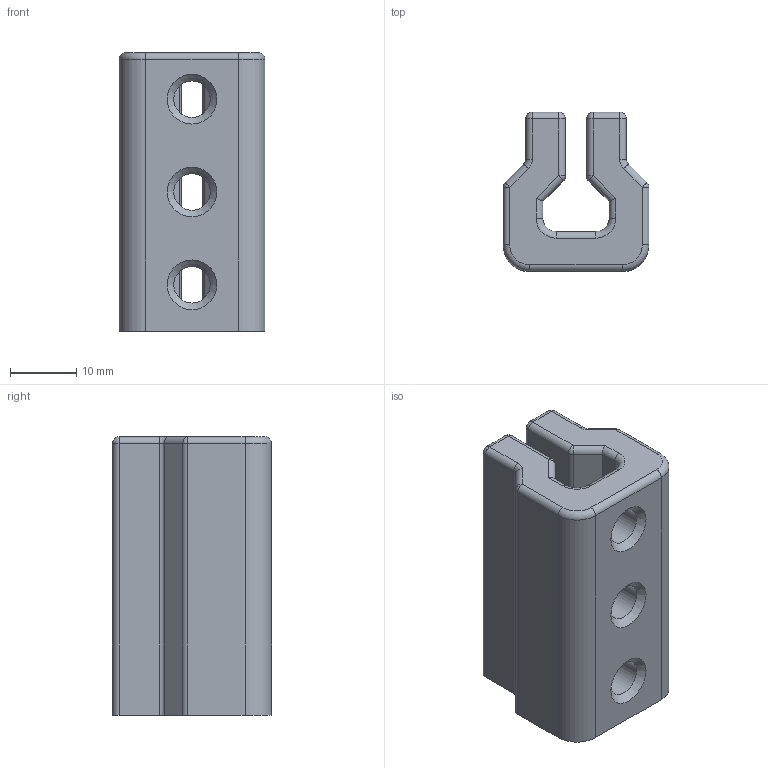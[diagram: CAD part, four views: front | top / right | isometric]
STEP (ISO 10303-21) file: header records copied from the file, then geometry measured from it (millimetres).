
FILE_DESCRIPTION(/* description */ (''),/* implementation_level */ '2;1');
FILE_NAME(/* name */ 'V:\Flow\Inventor\PEEK\Reaktoren\PEEK_mittiger Anschluss_Schiene_3er.stp',/* time_stamp */ '2020-05-22T11:50:42+02:00',/* author */ ('JN'),/* organization */ (''),/* preprocessor_version */ 'ST-DEVELOPER v17',/* originating_system */ 'Autodesk Inventor 2018',/* authorisation */ '');
FILE_SCHEMA (('AUTOMOTIVE_DESIGN { 1 0 10303 214 3 1 1 }'));
Length unit declared in the file: millimetre
Products named in the file (1): PEEK_mittiger Anschluss_Schiene_3er
Bounding box: 22 x 24 x 42 mm (x, y, z)
Volume: 14588.1 mm3; surface area: 6118.3 mm2
Topology: 1 solids, 1 shells, 68 faces, 160 edges, 94 vertices
Faces by surface type: cylinder 33, plane 18, sphere 8, torus 6, cone 3
Full cylindrical faces by diameter (mm): 5.5 x3
Entity records: 1987 total; most frequent: DIRECTION 374, CARTESIAN_POINT 323, ORIENTED_EDGE 320, EDGE_CURVE 160, AXIS2_PLACEMENT_3D 145, VERTEX_POINT 94, LINE 84, VECTOR 84
